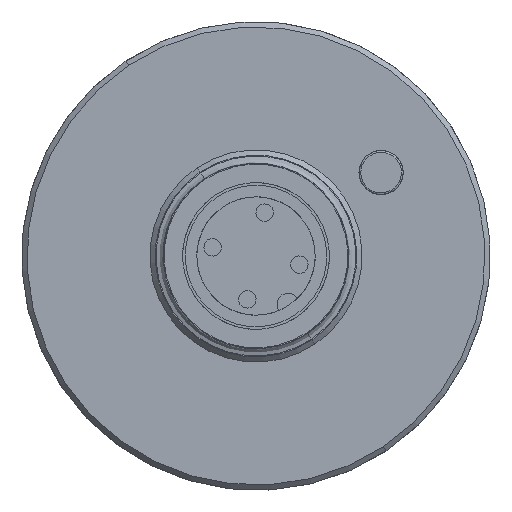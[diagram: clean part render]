
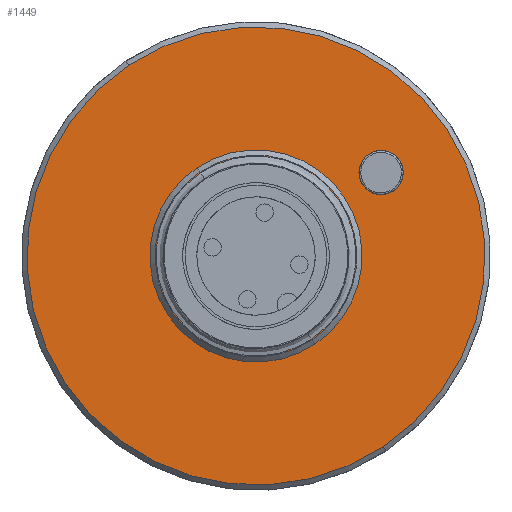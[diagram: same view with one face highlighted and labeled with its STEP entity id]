
A CAD part, front view. The second image highlights one B-rep face of the part: STEP entity #1449.
In plain terms, the highlighted planar face has unit normal (0, -1, 0).
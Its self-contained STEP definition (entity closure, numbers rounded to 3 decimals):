
#2 = CIRCLE ( 'NONE', #1343, 12.95 ) ;
#18 = EDGE_CURVE ( 'NONE', #1452, #3106, #2, .T. ) ;
#53 = ORIENTED_EDGE ( 'NONE', *, *, #2435, .F. ) ;
#56 = FACE_BOUND ( 'NONE', #4276, .T. ) ;
#135 = EDGE_LOOP ( 'NONE', ( #1743, #503 ) ) ;
#361 = CIRCLE ( 'NONE', #4890, 1.25 ) ;
#385 = AXIS2_PLACEMENT_3D ( 'NONE', #2636, #2981, #2529 ) ;
#445 = AXIS2_PLACEMENT_3D ( 'NONE', #4352, #1888, #4673 ) ;
#462 = EDGE_CURVE ( 'NONE', #3106, #1452, #5108, .T. ) ;
#503 = ORIENTED_EDGE ( 'NONE', *, *, #18, .T. ) ;
#625 = VERTEX_POINT ( 'NONE', #3394 ) ;
#642 = DIRECTION ( 'NONE',  ( 0., -1., 0. ) ) ;
#660 = ORIENTED_EDGE ( 'NONE', *, *, #1061, .T. ) ;
#696 = AXIS2_PLACEMENT_3D ( 'NONE', #4468, #3609, #2001 ) ;
#726 = ORIENTED_EDGE ( 'NONE', *, *, #1435, .T. ) ;
#749 = CARTESIAN_POINT ( 'NONE',  ( 0., -615.7, 0. ) ) ;
#874 = CARTESIAN_POINT ( 'NONE',  ( -4.368, -615.7, -2.912 ) ) ;
#898 = FACE_OUTER_BOUND ( 'NONE', #135, .T. ) ;
#1061 = EDGE_CURVE ( 'NONE', #2172, #3026, #3036, .T. ) ;
#1170 = DIRECTION ( 'NONE',  ( -0.555, 0., 0.832 ) ) ;
#1275 = CARTESIAN_POINT ( 'NONE',  ( 0., -615.7, 0. ) ) ;
#1343 = AXIS2_PLACEMENT_3D ( 'NONE', #749, #4279, #1170 ) ;
#1360 = CARTESIAN_POINT ( 'NONE',  ( -3.134, -615.7, 4.701 ) ) ;
#1363 = ORIENTED_EDGE ( 'NONE', *, *, #3877, .F. ) ;
#1435 = EDGE_CURVE ( 'NONE', #3026, #2172, #4295, .T. ) ;
#1449 = ADVANCED_FACE ( 'NONE', ( #898, #2449, #56 ), #5212, .T. ) ;
#1452 = VERTEX_POINT ( 'NONE', #1636 ) ;
#1609 = DIRECTION ( 'NONE',  ( 0., -1., 0. ) ) ;
#1636 = CARTESIAN_POINT ( 'NONE',  ( -7.183, -615.7, 10.775 ) ) ;
#1701 = AXIS2_PLACEMENT_3D ( 'NONE', #874, #1609, #4813 ) ;
#1743 = ORIENTED_EDGE ( 'NONE', *, *, #462, .T. ) ;
#1888 = DIRECTION ( 'NONE',  ( 0., 1., 0. ) ) ;
#1930 = EDGE_LOOP ( 'NONE', ( #1363, #53 ) ) ;
#2001 = DIRECTION ( 'NONE',  ( -0.555, 0., 0.832 ) ) ;
#2159 = DIRECTION ( 'NONE',  ( -0.555, 0., 0.832 ) ) ;
#2172 = VERTEX_POINT ( 'NONE', #4347 ) ;
#2435 = EDGE_CURVE ( 'NONE', #625, #4590, #361, .T. ) ;
#2449 = FACE_BOUND ( 'NONE', #1930, .T. ) ;
#2529 = DIRECTION ( 'NONE',  ( -0.555, 0., 0.832 ) ) ;
#2580 = DIRECTION ( 'NONE',  ( 0., -1., 0. ) ) ;
#2586 = DIRECTION ( 'NONE',  ( -0.555, 0., 0.832 ) ) ;
#2636 = CARTESIAN_POINT ( 'NONE',  ( 7.072, -615.7, 4.715 ) ) ;
#2981 = DIRECTION ( 'NONE',  ( 0., -1., 0. ) ) ;
#3026 = VERTEX_POINT ( 'NONE', #1360 ) ;
#3036 = CIRCLE ( 'NONE', #445, 5.65 ) ;
#3106 = VERTEX_POINT ( 'NONE', #3724 ) ;
#3394 = CARTESIAN_POINT ( 'NONE',  ( 7.766, -615.7, 3.675 ) ) ;
#3521 = CARTESIAN_POINT ( 'NONE',  ( 6.379, -615.7, 5.755 ) ) ;
#3609 = DIRECTION ( 'NONE',  ( 0., 1., 0. ) ) ;
#3724 = CARTESIAN_POINT ( 'NONE',  ( 7.183, -615.7, -10.775 ) ) ;
#3877 = EDGE_CURVE ( 'NONE', #4590, #625, #4908, .T. ) ;
#4009 = AXIS2_PLACEMENT_3D ( 'NONE', #1275, #2580, #2159 ) ;
#4276 = EDGE_LOOP ( 'NONE', ( #726, #660 ) ) ;
#4279 = DIRECTION ( 'NONE',  ( 0., -1., 0. ) ) ;
#4295 = CIRCLE ( 'NONE', #696, 5.65 ) ;
#4347 = CARTESIAN_POINT ( 'NONE',  ( 3.134, -615.7, -4.701 ) ) ;
#4352 = CARTESIAN_POINT ( 'NONE',  ( 0., -615.7, 0. ) ) ;
#4468 = CARTESIAN_POINT ( 'NONE',  ( 0., -615.7, 0. ) ) ;
#4590 = VERTEX_POINT ( 'NONE', #3521 ) ;
#4673 = DIRECTION ( 'NONE',  ( -0.555, 0., 0.832 ) ) ;
#4813 = DIRECTION ( 'NONE',  ( -0.555, 0., 0.832 ) ) ;
#4890 = AXIS2_PLACEMENT_3D ( 'NONE', #5029, #642, #2586 ) ;
#4908 = CIRCLE ( 'NONE', #385, 1.25 ) ;
#5029 = CARTESIAN_POINT ( 'NONE',  ( 7.072, -615.7, 4.715 ) ) ;
#5108 = CIRCLE ( 'NONE', #4009, 12.95 ) ;
#5212 = PLANE ( 'NONE',  #1701 ) ;
